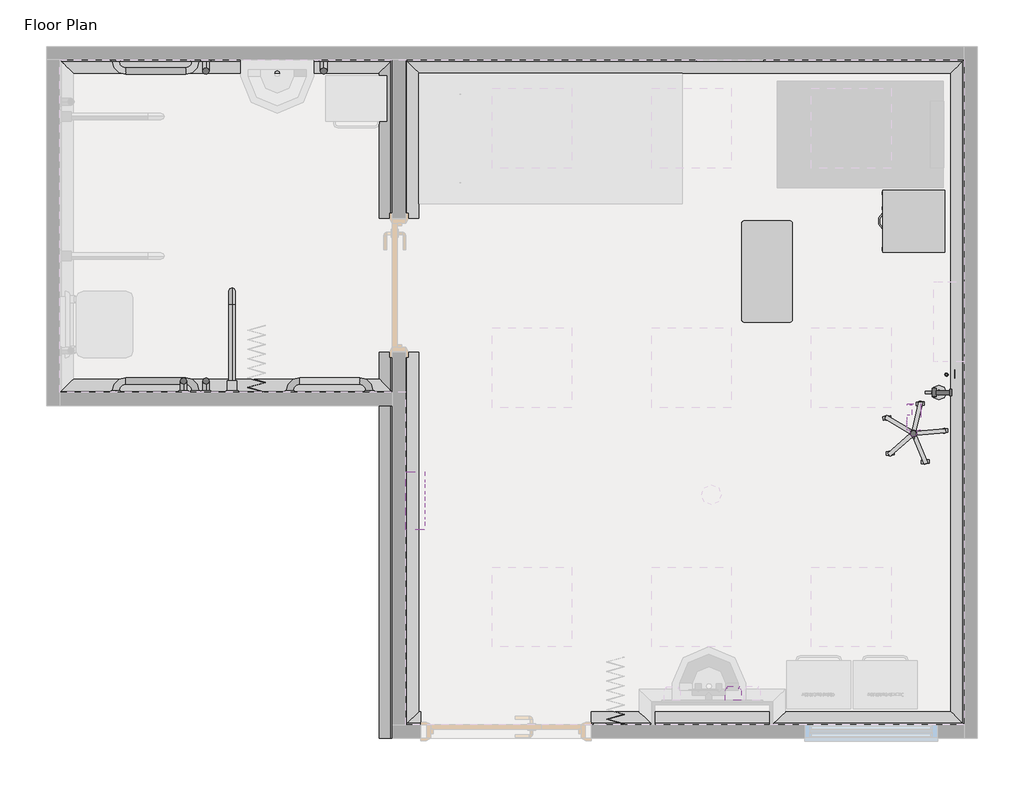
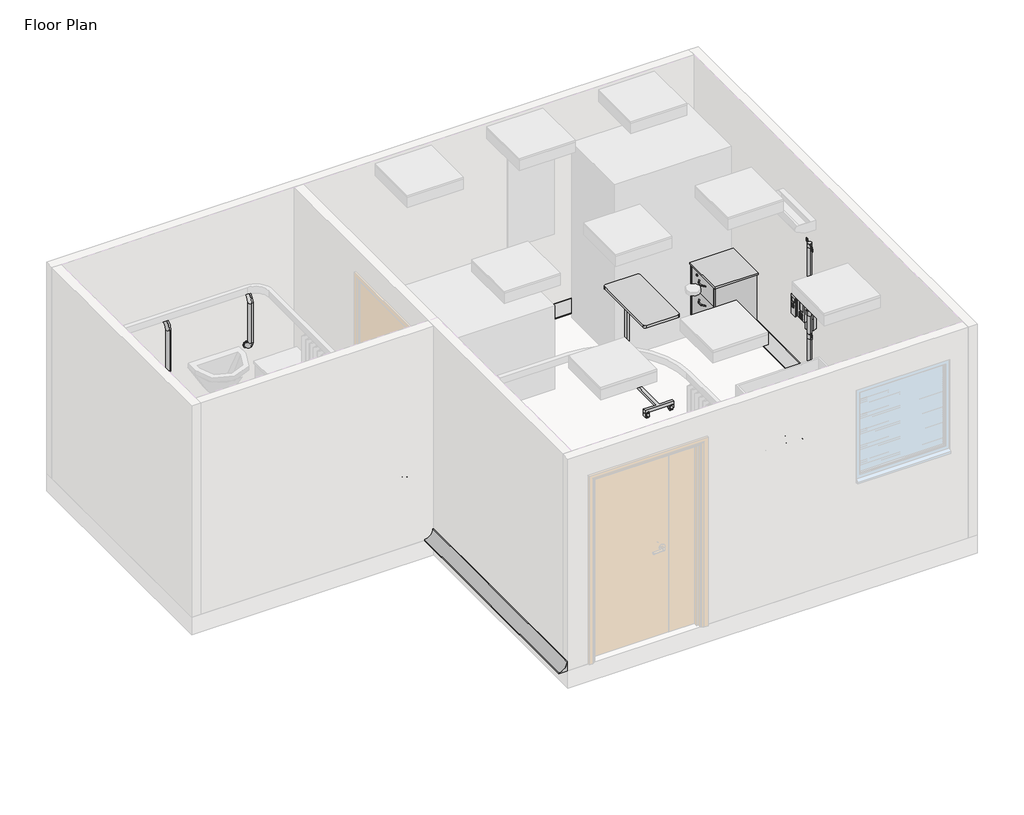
# One storey, part 2 of 2: 22 proxies.
"""IFC4 building model written with IfcOpenShell, lengths in millimetres."""

from ifc_helpers import new_model, si_unit, frame, origin, place, context, project, spatial, polyline, circle_curve, ellipse_curve, transform, mapped, element, save
from ifc_brep_helpers import plane_surface, revolved_surface, advanced_brep
from components import generic_models_eee01dc3, generic_models_69a9413b, generic_models_23b3e7a1, generic_models_51914271, generic_models_60647dcf, generic_models_1c4e6ef4, generic_models_abbf64a3, generic_models_7e8e4800, type_1_021b8e3e, type_1_3e4eb001, type_1_f4c963d5, type_1_f76a5bbc, type_1_f275d547

model = new_model("IFC4")

# Units and contexts
model_context = context("Model", 3, world=origin())
ifc_project = project(units=[si_unit("LENGTHUNIT", "METRE", prefix="MILLI")], contexts=[model_context])

# Site, building, storey
site = spatial("IfcSite", under=ifc_project)
building = spatial("IfcBuilding", under=site)
storey = spatial("IfcBuildingStorey", under=building, Name="Floor Plan", Elevation=0.0)

# Proxies
placement = place(None, origin())
element("IfcBuildingElementProxy", 1, Name="Wall Sweeps", at=placement, inside=storey, context=model_context, shape_type="AdvancedBrep", body=[
    advanced_brep(
    [(6305.0, 5415.0, 0.0), (6205.0, 5315.0, 0.0), (6205.0, 5315.0, 10.0), (6295.0, 5405.0, 100.0), (6305.0, 5415.0, 100.0), (6305.0, 415.0, 0.0), (6305.0, 415.0, 100.0), (6295.0, 425.0, 100.0), (6205.0, 515.0, 10.0), (6205.0, 515.0, 0.0)],
    [
        (0, 1),
        (1, 2),
        (2, 3, ellipse_curve(frame((6205.0, 5315.0, 100.0), z_axis=(0.7071067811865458, -0.7071067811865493, 0.0), x_axis=(-0.7071067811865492, -0.7071067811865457, 0.0)), 127.2792206, 90.0)),
        (3, 4),
        (4, 0),
        (5, 6),
        (6, 7),
        (7, 8, ellipse_curve(frame((6205.0, 515.0, 100.0), z_axis=(0.7071067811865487, 0.7071067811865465, 0.0), x_axis=(0.7071067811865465, -0.7071067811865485, 0.0)), 127.2792206, 90.0)),
        (8, 9),
        (9, 5),
        (0, 5),
        (9, 1),
        (8, 2),
        (7, 3),
        (6, 4),
    ],
    [
        plane_surface(frame((6305.0, 5415.0, 304.8), z_axis=(-0.7071067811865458, 0.7071067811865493, 0.0), x_axis=(-0.7071067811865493, -0.7071067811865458, 0.0))),
        plane_surface(frame((6305.0, 415.0, 304.8), z_axis=(-0.7071067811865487, -0.7071067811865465, 0.0), x_axis=(-0.7071067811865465, 0.7071067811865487, 0.0))),
        plane_surface(frame((6305.0, 5415.0, 0.0), z_axis=(0.0, 0.0, -1.0), x_axis=(0.0, -1.0, 0.0))),
        plane_surface(frame((6205.0, 5315.0, 0.0), z_axis=(-1.0, 0.0, 0.0), x_axis=(0.0, -1.0, 0.0))),
        revolved_surface(polyline([(6115.0, 425.0, 100.0), (6115.0, 5405.0, 100.0)]), (6205.0, 5415.0, 100.0), (0.0, -1.0, 0.0)),
        plane_surface(frame((6295.0, 5405.0, 100.0), z_axis=(0.0, 0.0, 1.0), x_axis=(0.0, -1.0, 0.0))),
        plane_surface(frame((6305.0, 5415.0, 100.0), z_axis=(1.0, 0.0, 0.0), x_axis=(0.0, -1.0, 0.0))),
    ],
    [
        (0, [[1, 2, 3, 4, 5]]),
        (1, [[6, 7, 8, 9, 10]]),
        (2, [[-1, 11, -10, 12]]),
        (3, [[-2, -12, -9, 13]]),
        (4, [[-3, -13, -8, 14]]),
        (5, [[-4, -14, -7, 15]]),
        (6, [[-5, -15, -6, -11]]),
    ],
),
])
element("IfcBuildingElementProxy", 2, Name="Wall Sweeps", at=placement, inside=storey, context=model_context, shape_type="AdvancedBrep", body=[
    advanced_brep(
    [(2220.0, 415.0, 0.0), (2220.0, 515.0, 0.0), (2220.0, 515.0, 10.0), (2220.0, 425.0, 100.0), (2220.0, 415.0, 100.0), (2105.0, 415.0, 0.0), (2105.0, 415.0, 100.0), (2115.0, 425.0, 100.0), (2205.0, 515.0, 10.0), (2205.0, 515.0, 0.0)],
    [
        (0, 1),
        (1, 2),
        (2, 3, circle_curve(frame((2220.0, 515.0, 100.0), z_axis=(-1.0, 0.0, 0.0), x_axis=(0.0, 1.0, 0.0)), 90.0)),
        (3, 4),
        (4, 0),
        (5, 6),
        (6, 7),
        (7, 8, ellipse_curve(frame((2205.0, 515.0, 100.0), z_axis=(0.7071067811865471, -0.707106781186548, 0.0), x_axis=(-0.7071067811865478, -0.7071067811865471, 0.0)), 127.2792206, 90.0)),
        (8, 9),
        (9, 5),
        (0, 5),
        (9, 1),
        (8, 2),
        (7, 3),
        (6, 4),
    ],
    [
        plane_surface(frame((2220.0, 415.0, -100.4987562), z_axis=(1.0, 0.0, 0.0), x_axis=(0.0, -1.0, 0.0))),
        plane_surface(frame((2105.0, 415.0, 304.8), z_axis=(-0.7071067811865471, 0.707106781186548, 0.0), x_axis=(0.707106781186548, 0.7071067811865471, 0.0))),
        plane_surface(frame((2220.0, 415.0, 0.0), z_axis=(0.0, 0.0, -1.0), x_axis=(-1.0, 0.0, 0.0))),
        plane_surface(frame((2220.0, 515.0, 0.0), z_axis=(0.0, 1.0, 0.0), x_axis=(-1.0, 0.0, 0.0))),
        revolved_surface(polyline([(2115.0, 605.0, 100.0), (2294.9999999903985, 605.0, 100.0)]), (2220.0, 515.0, 100.0), (-1.0, 0.0, 0.0)),
        plane_surface(frame((2220.0, 425.0, 100.0), z_axis=(0.0, 0.0, 1.0), x_axis=(-1.0, 0.0, 0.0))),
        plane_surface(frame((2220.0, 415.0, 100.0), z_axis=(0.0, -1.0, 0.0), x_axis=(-1.0, 0.0, 0.0))),
    ],
    [
        (0, [[1, 2, 3, 4, 5]]),
        (1, [[6, 7, 8, 9, 10]]),
        (2, [[-1, 11, -10, 12]]),
        (3, [[-2, -12, -9, 13]]),
        (4, [[-3, -13, -8, 14]]),
        (5, [[-4, -14, -7, 15]]),
        (6, [[-5, -15, -6, -11]]),
    ],
),
    advanced_brep(
    [(6305.0, 415.0, 0.0), (6205.0, 515.0, 0.0), (6205.0, 515.0, 10.0), (6295.0, 425.0, 100.0), (6305.0, 415.0, 100.0), (3500.0, 415.0, 0.0), (3500.0, 415.0, 100.0), (3500.0, 425.0, 100.0), (3500.0, 515.0, 10.0), (3500.0, 515.0, 0.0)],
    [
        (0, 1),
        (1, 2),
        (2, 3, ellipse_curve(frame((6205.0, 515.0, 100.0), z_axis=(-0.7071067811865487, -0.7071067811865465, 0.0), x_axis=(-0.7071067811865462, 0.7071067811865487, 0.0)), 127.2792206, 90.0)),
        (3, 4),
        (4, 0),
        (5, 6),
        (6, 7),
        (7, 8, circle_curve(frame((3500.0, 515.0, 100.0), z_axis=(1.0, 0.0, 0.0), x_axis=(0.0, 1.0, 0.0)), 90.0)),
        (8, 9),
        (9, 5),
        (0, 5),
        (9, 1),
        (8, 2),
        (7, 3),
        (6, 4),
    ],
    [
        plane_surface(frame((6305.0, 415.0, 304.8), z_axis=(0.7071067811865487, 0.7071067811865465, 0.0), x_axis=(-0.7071067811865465, 0.7071067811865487, 0.0))),
        plane_surface(frame((3500.0, 415.0, -100.4987562), z_axis=(-1.0, 0.0, 0.0), x_axis=(0.0, -1.0, 0.0))),
        plane_surface(frame((6305.0, 415.0, 0.0), z_axis=(0.0, 0.0, -1.0), x_axis=(-1.0, 0.0, 0.0))),
        plane_surface(frame((6205.0, 515.0, 0.0), z_axis=(0.0, 1.0, 0.0), x_axis=(-1.0, 0.0, 0.0))),
        revolved_surface(polyline([(3500.0, 605.0, 100.0), (6295.0, 605.0, 100.0)]), (6305.0, 515.0, 100.0), (-1.0, 0.0, 0.0)),
        plane_surface(frame((6295.0, 425.0, 100.0), z_axis=(0.0, 0.0, 1.0), x_axis=(-1.0, 0.0, 0.0))),
        plane_surface(frame((6305.0, 415.0, 100.0), z_axis=(0.0, -1.0, 0.0), x_axis=(-1.0, 0.0, 0.0))),
    ],
    [
        (0, [[1, 2, 3, 4, 5]]),
        (1, [[6, 7, 8, 9, 10]]),
        (2, [[-1, 11, -10, 12]]),
        (3, [[-2, -12, -9, 13]]),
        (4, [[-3, -13, -8, 14]]),
        (5, [[-4, -14, -7, 15]]),
        (6, [[-5, -15, -6, -11]]),
    ],
),
])
element("IfcBuildingElementProxy", 3, Name="Wall Sweeps", at=placement, inside=storey, context=model_context, shape_type="AdvancedBrep", body=[
    advanced_brep(
    [(2105.0, 415.0, 0.0), (2205.0, 515.0, 0.0), (2205.0, 515.0, 10.0), (2115.0, 425.0, 100.0), (2105.0, 415.0, 100.0), (2105.0, 3215.0, 0.0), (2105.0, 3215.0, 100.0), (2115.0, 3215.0, 100.0), (2205.0, 3215.0, 10.0), (2205.0, 3215.0, 0.0)],
    [
        (0, 1),
        (1, 2),
        (2, 3, ellipse_curve(frame((2205.0, 515.0, 100.0), z_axis=(-0.7071067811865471, 0.707106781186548, 0.0), x_axis=(0.707106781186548, 0.7071067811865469, 0.0)), 127.2792206, 90.0)),
        (3, 4),
        (4, 0),
        (5, 6),
        (6, 7),
        (7, 8, circle_curve(frame((2205.0, 3215.0, 100.0), z_axis=(0.0, -1.0, 0.0), x_axis=(1.0, 0.0, 0.0)), 90.0)),
        (8, 9),
        (9, 5),
        (0, 5),
        (9, 1),
        (8, 2),
        (7, 3),
        (6, 4),
    ],
    [
        plane_surface(frame((2105.0, 415.0, 304.8), z_axis=(0.7071067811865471, -0.707106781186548, 0.0), x_axis=(0.707106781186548, 0.7071067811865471, 0.0))),
        plane_surface(frame((2004.5012438, 3215.0, 0.0), z_axis=(0.0, 1.0, 0.0), x_axis=(0.0, 0.0, 1.0))),
        plane_surface(frame((2105.0, 415.0, 0.0), z_axis=(0.0, 0.0, -1.0), x_axis=(0.0, 1.0, 0.0))),
        plane_surface(frame((2205.0, 515.0, 0.0), z_axis=(1.0, 0.0, 0.0), x_axis=(0.0, 1.0, 0.0))),
        revolved_surface(polyline([(2295.0, 3215.0, 100.0), (2295.0, 425.0, 100.0)]), (2205.0, 415.0, 100.0), (0.0, 1.0, 0.0)),
        plane_surface(frame((2115.0, 425.0, 100.0), z_axis=(0.0, 0.0, 1.0), x_axis=(0.0, 1.0, 0.0))),
        plane_surface(frame((2105.0, 415.0, 100.0), z_axis=(-1.0, 0.0, 0.0), x_axis=(0.0, 1.0, 0.0))),
    ],
    [
        (0, [[1, 2, 3, 4, 5]]),
        (1, [[6, 7, 8, 9, 10]]),
        (2, [[-1, 11, -10, 12]]),
        (3, [[-2, -12, -9, 13]]),
        (4, [[-3, -13, -8, 14]]),
        (5, [[-4, -14, -7, 15]]),
        (6, [[-5, -15, -6, -11]]),
    ],
),
    advanced_brep(
    [(2105.0, 4225.0, 0.0), (2205.0, 4225.0, 0.0), (2205.0, 4225.0, 10.0), (2115.0, 4225.0, 100.0), (2105.0, 4225.0, 100.0), (2105.0, 5415.0, 0.0), (2105.0, 5415.0, 100.0), (2115.0, 5415.0, 100.0), (2205.0, 5415.0, 10.0), (2205.0, 5415.0, 0.0)],
    [
        (0, 1),
        (1, 2),
        (2, 3, circle_curve(frame((2205.0, 4225.0, 100.0), z_axis=(0.0, 1.0, 0.0), x_axis=(1.0, 0.0, 0.0)), 90.0)),
        (3, 4),
        (4, 0),
        (5, 6),
        (6, 7),
        (7, 8, circle_curve(frame((2205.0, 5415.0, 100.0), z_axis=(0.0, -1.0, 0.0), x_axis=(1.0, 0.0, 0.0)), 90.0)),
        (8, 9),
        (9, 5),
        (0, 5),
        (9, 1),
        (8, 2),
        (7, 3),
        (6, 4),
    ],
    [
        plane_surface(frame((2004.5012438, 4225.0, 0.0), z_axis=(0.0, -1.0, 0.0), x_axis=(0.0, 0.0, 1.0))),
        plane_surface(frame((2004.5012438, 5415.0, 0.0), z_axis=(0.0, 1.0, 0.0), x_axis=(0.0, 0.0, 1.0))),
        plane_surface(frame((2105.0, 4225.0, 0.0), z_axis=(0.0, 0.0, -1.0), x_axis=(0.0, 1.0, 0.0))),
        plane_surface(frame((2205.0, 4225.0, 0.0), z_axis=(1.0, 0.0, 0.0), x_axis=(0.0, 1.0, 0.0))),
        revolved_surface(polyline([(2295.0, 5415.0, 100.0), (2295.0, 4225.0, 100.0)]), (2205.0, 4225.0, 100.0), (0.0, 1.0, 0.0)),
        plane_surface(frame((2115.0, 4225.0, 100.0), z_axis=(0.0, 0.0, 1.0), x_axis=(0.0, 1.0, 0.0))),
        plane_surface(frame((2105.0, 4225.0, 100.0), z_axis=(-1.0, 0.0, 0.0), x_axis=(0.0, 1.0, 0.0))),
    ],
    [
        (0, [[1, 2, 3, 4, 5]]),
        (1, [[6, 7, 8, 9, 10]]),
        (2, [[-1, 11, -10, 12]]),
        (3, [[-2, -12, -9, 13]]),
        (4, [[-3, -13, -8, 14]]),
        (5, [[-4, -14, -7, 15]]),
        (6, [[-5, -15, -6, -11]]),
    ],
),
])
element("IfcBuildingElementProxy", 4, Name="Wall Sweeps", at=placement, inside=storey, context=model_context, shape_type="AdvancedBrep", body=[
    advanced_brep(
    [(-495.0, 5415.0, 0.0), (-395.0, 5315.0, 0.0), (-395.0, 5315.0, 10.0), (-485.0, 5405.0, 100.0), (-495.0, 5415.0, 100.0), (6305.0, 5415.0, 0.0), (6305.0, 5415.0, 100.0), (6295.0, 5405.0, 100.0), (6205.0, 5315.0, 10.0), (6205.0, 5315.0, 0.0)],
    [
        (0, 1),
        (1, 2),
        (2, 3, ellipse_curve(frame((-395.0, 5315.0, 100.0), z_axis=(0.7071067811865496, 0.7071067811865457, 0.0), x_axis=(0.7071067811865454, -0.7071067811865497, 0.0)), 127.2792206, 90.0)),
        (3, 4),
        (4, 0),
        (5, 6),
        (6, 7),
        (7, 8, ellipse_curve(frame((6205.0, 5315.0, 100.0), z_axis=(-0.7071067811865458, 0.7071067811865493, 0.0), x_axis=(0.7071067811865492, 0.7071067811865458, 0.0)), 127.2792206, 90.0)),
        (8, 9),
        (9, 5),
        (0, 5),
        (9, 1),
        (8, 2),
        (7, 3),
        (6, 4),
    ],
    [
        plane_surface(frame((-495.0, 5415.0, 304.8), z_axis=(-0.7071067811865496, -0.7071067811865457, 0.0), x_axis=(0.7071067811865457, -0.7071067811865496, 0.0))),
        plane_surface(frame((6305.0, 5415.0, 304.8), z_axis=(0.7071067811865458, -0.7071067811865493, 0.0), x_axis=(-0.7071067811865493, -0.7071067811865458, 0.0))),
        plane_surface(frame((-495.0, 5415.0, 0.0), z_axis=(0.0, 0.0, -1.0), x_axis=(1.0, 0.0, 0.0))),
        plane_surface(frame((-395.0, 5315.0, 0.0), z_axis=(0.0, -1.0, 0.0), x_axis=(1.0, 0.0, 0.0))),
        revolved_surface(polyline([(6295.0, 5225.0, 100.0), (-485.0, 5225.0, 100.0)]), (-495.0, 5315.0, 100.0), (1.0, 0.0, 0.0)),
        plane_surface(frame((-485.0, 5405.0, 100.0), z_axis=(0.0, 0.0, 1.0), x_axis=(1.0, 0.0, 0.0))),
        plane_surface(frame((-495.0, 5415.0, 100.0), z_axis=(0.0, 1.0, 0.0), x_axis=(1.0, 0.0, 0.0))),
    ],
    [
        (0, [[1, 2, 3, 4, 5]]),
        (1, [[6, 7, 8, 9, 10]]),
        (2, [[-1, 11, -10, 12]]),
        (3, [[-2, -12, -9, 13]]),
        (4, [[-3, -13, -8, 14]]),
        (5, [[-4, -14, -7, 15]]),
        (6, [[-5, -15, -6, -11]]),
    ],
),
])
element("IfcBuildingElementProxy", 5, Name="Wall Sweeps", at=placement, inside=storey, context=model_context, shape_type="AdvancedBrep", body=[
    advanced_brep(
    [(-495.0, 2915.0, 0.0), (-495.0, 2915.0, 100.0), (-485.0, 2925.0, 100.0), (-395.0, 3015.0, 10.0), (-395.0, 3015.0, 0.0), (2005.0, 2915.0, 0.0), (2005.0, 3015.0, 0.0), (2005.0, 3015.0, 10.0), (2005.0, 2925.0, 100.0), (2005.0, 2915.0, 100.0)],
    [
        (0, 1),
        (1, 2),
        (2, 3, ellipse_curve(frame((-395.0, 3015.0, 100.0), z_axis=(0.707106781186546, -0.7071067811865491, 0.0), x_axis=(0.707106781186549, 0.707106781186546, 0.0)), 127.2792206, 90.0)),
        (3, 4),
        (4, 0),
        (5, 6),
        (6, 7),
        (7, 8, circle_curve(frame((2005.0, 3015.0, 100.0), z_axis=(-1.0, 0.0, 0.0), x_axis=(0.0, 1.0, 0.0)), 90.0)),
        (8, 9),
        (9, 5),
        (0, 5),
        (9, 1),
        (8, 2),
        (7, 3),
        (6, 4),
    ],
    [
        plane_surface(frame((-495.0, 2915.0, -304.8), z_axis=(-0.707106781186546, 0.7071067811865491, 0.0), x_axis=(0.7071067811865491, 0.707106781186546, 0.0))),
        plane_surface(frame((2005.0, 2915.0, -100.4987562), z_axis=(1.0, 0.0, 0.0), x_axis=(0.0, 1.0, 0.0))),
        plane_surface(frame((-495.0, 2915.0, 0.0), z_axis=(0.0, -1.0, 0.0), x_axis=(1.0, 0.0, 0.0))),
        plane_surface(frame((-495.0, 2915.0, 100.0), z_axis=(0.0, 0.0, 1.0), x_axis=(1.0, 0.0, 0.0))),
        revolved_surface(polyline([(2005.0, 3105.0, 100.0), (-485.0, 3105.0, 100.0)]), (-495.0, 3015.0, 100.0), (1.0, 0.0, 0.0)),
        plane_surface(frame((-395.0, 3015.0, 10.0), z_axis=(0.0, 1.0, 0.0), x_axis=(1.0, 0.0, 0.0))),
        plane_surface(frame((-395.0, 3015.0, 0.0), z_axis=(0.0, 0.0, -1.0), x_axis=(1.0, 0.0, 0.0))),
    ],
    [
        (0, [[1, 2, 3, 4, 5]]),
        (1, [[6, 7, 8, 9, 10]]),
        (2, [[-1, 11, -10, 12]]),
        (3, [[-2, -12, -9, 13]]),
        (4, [[-3, -13, -8, 14]]),
        (5, [[-4, -14, -7, 15]]),
        (6, [[-5, -15, -6, -11]]),
    ],
),
])
element("IfcBuildingElementProxy", 6, Name="Wall Sweeps", at=placement, inside=storey, context=model_context, shape_type="AdvancedBrep", body=[
    advanced_brep(
    [(2005.0, 315.0, 0.0), (2005.0, 315.0, 100.0), (1995.0, 315.0, 100.0), (1905.0, 315.0, 10.0), (1905.0, 315.0, 0.0), (2005.0, 3215.0, 0.0), (1905.0, 3215.0, 0.0), (1905.0, 3215.0, 10.0), (1995.0, 3215.0, 100.0), (2005.0, 3215.0, 100.0), (2005.0, 415.0, 0.0)],
    [
        (0, 1),
        (1, 2),
        (2, 3, circle_curve(frame((1905.0, 315.0, 100.0), z_axis=(0.0, 1.0, 0.0), x_axis=(-1.0, 0.0, 0.0)), 90.0)),
        (3, 4),
        (4, 0),
        (5, 6),
        (6, 7),
        (7, 8, circle_curve(frame((1905.0, 3215.0, 100.0), z_axis=(0.0, -1.0, 0.0), x_axis=(-1.0, 0.0, 0.0)), 90.0)),
        (8, 9),
        (9, 5),
        (0, 10),
        (10, 5),
        (9, 1),
        (8, 2),
        (7, 3),
        (6, 4),
    ],
    [
        plane_surface(frame((1904.5012438, 315.0, 0.0), z_axis=(0.0, -1.0, 0.0), x_axis=(0.0, 0.0, 1.0))),
        plane_surface(frame((1904.5012438, 3215.0, 0.0), z_axis=(0.0, 1.0, 0.0), x_axis=(0.0, 0.0, 1.0))),
        plane_surface(frame((2005.0, 315.0, 0.0), z_axis=(1.0, 0.0, 0.0), x_axis=(0.0, 1.0, 0.0))),
        plane_surface(frame((2005.0, 315.0, 100.0), z_axis=(0.0, 0.0, 1.0), x_axis=(0.0, 1.0, 0.0))),
        revolved_surface(polyline([(1815.0, 3215.0, 100.0), (1815.0, 315.0, 100.0)]), (1905.0, 315.0, 100.0), (0.0, 1.0, 0.0)),
        plane_surface(frame((1905.0, 315.0, 10.0), z_axis=(-1.0, 0.0, 0.0), x_axis=(0.0, 1.0, 0.0))),
        plane_surface(frame((1905.0, 315.0, 0.0), z_axis=(0.0, 0.0, -1.0), x_axis=(0.0, 1.0, 0.0))),
    ],
    [
        (0, [[1, 2, 3, 4, 5]]),
        (1, [[6, 7, 8, 9, 10]]),
        (2, [[-1, 11, 12, -10, 13]]),
        (3, [[-2, -13, -9, 14]]),
        (4, [[-3, -14, -8, 15]]),
        (5, [[-4, -15, -7, 16]]),
        (6, [[-5, -16, -6, -12, -11]]),
    ],
),
    advanced_brep(
    [(2005.0, 4225.0, 0.0), (2005.0, 4225.0, 100.0), (1995.0, 4225.0, 100.0), (1905.0, 4225.0, 10.0), (1905.0, 4225.0, 0.0), (2005.0, 5415.0, 0.0), (1905.0, 5415.0, 0.0), (1905.0, 5415.0, 10.0), (1995.0, 5415.0, 100.0), (2005.0, 5415.0, 100.0)],
    [
        (0, 1),
        (1, 2),
        (2, 3, circle_curve(frame((1905.0, 4225.0, 100.0), z_axis=(0.0, 1.0, 0.0), x_axis=(-1.0, 0.0, 0.0)), 90.0)),
        (3, 4),
        (4, 0),
        (5, 6),
        (6, 7),
        (7, 8, circle_curve(frame((1905.0, 5415.0, 100.0), z_axis=(0.0, -1.0, 0.0), x_axis=(-1.0, 0.0, 0.0)), 90.0)),
        (8, 9),
        (9, 5),
        (0, 5),
        (9, 1),
        (8, 2),
        (7, 3),
        (6, 4),
    ],
    [
        plane_surface(frame((1904.5012438, 4225.0, 0.0), z_axis=(0.0, -1.0, 0.0), x_axis=(0.0, 0.0, 1.0))),
        plane_surface(frame((1904.5012438, 5415.0, 0.0), z_axis=(0.0, 1.0, 0.0), x_axis=(0.0, 0.0, 1.0))),
        plane_surface(frame((2005.0, 4225.0, 0.0), z_axis=(1.0, 0.0, 0.0), x_axis=(0.0, 1.0, 0.0))),
        plane_surface(frame((2005.0, 4225.0, 100.0), z_axis=(0.0, 0.0, 1.0), x_axis=(0.0, 1.0, 0.0))),
        revolved_surface(polyline([(1815.0, 5415.0, 100.0), (1815.0, 4225.0, 100.0)]), (1905.0, 4225.0, 100.0), (0.0, 1.0, 0.0)),
        plane_surface(frame((1905.0, 4225.0, 10.0), z_axis=(-1.0, 0.0, 0.0), x_axis=(0.0, 1.0, 0.0))),
        plane_surface(frame((1905.0, 4225.0, 0.0), z_axis=(0.0, 0.0, -1.0), x_axis=(0.0, 1.0, 0.0))),
    ],
    [
        (0, [[1, 2, 3, 4, 5]]),
        (1, [[6, 7, 8, 9, 10]]),
        (2, [[-1, 11, -10, 12]]),
        (3, [[-2, -12, -9, 13]]),
        (4, [[-3, -13, -8, 14]]),
        (5, [[-4, -14, -7, 15]]),
        (6, [[-5, -15, -6, -11]]),
    ],
),
])
generic_models_shape = generic_models_eee01dc3(model_context)
element("IfcBuildingElementProxy", 7, Name="BIMHealth-Table_Overbed-LOD2A-v1 : BIMHealth-Table_Overbed-LOD2A-v1", ObjectType="BIMHealth-Table_Overbed-LOD2A-v1 : BIMHealth-Table_Overbed-LOD2A-v1", at=placement, inside=storey, context=model_context, shape_type="MappedRepresentation", body=[
    mapped(generic_models_shape, transform((5013.7834569, 4204.5, 0.0), x_axis=(0.0, -1.0000000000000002, 0.0), y_axis=(1.0000000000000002, 0.0, 0.0), z_axis=(0.0, 0.0, 1.0))),
])
generic_models_2_shape = generic_models_69a9413b(model_context)
element("IfcBuildingElementProxy", 8, Name="BIMHealth-Drip_Stand-LOD2A-v1 : BIMHealth-Drip_Stand-LOD2A-v1", ObjectType="BIMHealth-Drip_Stand-LOD2A-v1 : BIMHealth-Drip_Stand-LOD2A-v1", at=placement, inside=storey, context=model_context, shape_type="MappedRepresentation", body=[
    mapped(generic_models_2_shape, transform((5923.0037354, 2605.3435148, 0.0), x_axis=(-0.08715574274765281, 0.9961946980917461, 0.0), y_axis=(-0.9961946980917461, -0.08715574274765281, 0.0), z_axis=(0.0, 0.0, 1.0))),
])
generic_models_3_shape = generic_models_23b3e7a1(model_context)
element("IfcBuildingElementProxy", 9, Name="BIMHealth-IV_Pump-LOD2A-v1 : BIMHealth-IV_Pump-LOD2A-v1", ObjectType="BIMHealth-IV_Pump-LOD2A-v1 : BIMHealth-IV_Pump-LOD2A-v1", at=placement, inside=storey, context=model_context, shape_type="MappedRepresentation", body=[
    mapped(generic_models_3_shape, transform((5977.0111903, 2628.228362, 0.0), x_axis=(0.0, 1.0000000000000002, 0.0), y_axis=(-1.0000000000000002, 0.0, 0.0), z_axis=(0.0, 0.0, 1.0))),
])
generic_models_4_shape = generic_models_51914271(model_context)
element("IfcBuildingElementProxy", 10, Name="BIMHealth-Locker_Bedside-LOD2A-v1 : BIMHealth-Locker_Bedside-LOD2A-v1", ObjectType="BIMHealth-Locker_Bedside-LOD2A-v1 : BIMHealth-Locker_Bedside-LOD2A-v1", at=placement, inside=storey, context=model_context, shape_type="MappedRepresentation", body=[
    mapped(generic_models_4_shape, transform((6150.0, 4477.5, 0.0), x_axis=(0.0, -1.0000000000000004, 0.0), y_axis=(1.0000000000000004, 0.0, 0.0), z_axis=(0.0, 0.0, 1.0))),
])
generic_models_5_shape = generic_models_60647dcf(model_context)
element("IfcBuildingElementProxy", 11, Name="BIMHealth-Flowmeter_Oxygen-LOD2A-v1 : BIMHealth-Flowmeter_Oxygen-LOD2A-v1", ObjectType="BIMHealth-Flowmeter_Oxygen-LOD2A-v1 : BIMHealth-Flowmeter_Oxygen-LOD2A-v1", at=placement, inside=storey, context=model_context, shape_type="MappedRepresentation", body=[
    mapped(generic_models_5_shape, transform((6172.1875, 3047.6875, 0.0), x_axis=(0.0, 1.0000000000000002, 0.0), y_axis=(-1.0000000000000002, 0.0, 0.0), z_axis=(0.0, 0.0, 1.0))),
])
generic_models_6_shape = generic_models_1c4e6ef4(model_context)
element("IfcBuildingElementProxy", 12, Name="BIMHealth-Flowmeter_Suction-LOD2A-v1 : BIMHealth-Flowmeter_Suction-LOD2A-v1", ObjectType="BIMHealth-Flowmeter_Suction-LOD2A-v1 : BIMHealth-Flowmeter_Suction-LOD2A-v1", at=placement, inside=storey, context=model_context, shape_type="MappedRepresentation", body=[
    mapped(generic_models_6_shape, transform((6095.0, 2912.5, 0.0), x_axis=(0.0, -1.0, 0.0), y_axis=(1.0, 0.0, 0.0), z_axis=(0.0, 0.0, 1.0))),
])
generic_models_7_shape = generic_models_abbf64a3(model_context)
element("IfcBuildingElementProxy", 13, Name="BIMHealth-Hand_Cream_Dispenser-LOD2A-v1 : BIMHealth-Hand_Cream_Dispenser-LOD2A-v1", ObjectType="BIMHealth-Hand_Cream_Dispenser-LOD2A-v1 : BIMHealth-Hand_Cream_Dispenser-LOD2A-v1", at=placement, inside=storey, context=model_context, shape_type="MappedRepresentation", body=[
    mapped(generic_models_7_shape, transform((4627.6775216, 601.0, 150.0), x_axis=(-1.0000000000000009, 0.0, 0.0), y_axis=(0.0, -1.0000000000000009, 0.0), z_axis=(0.0, 0.0, 1.0))),
])
generic_models_8_shape = generic_models_7e8e4800(model_context)
element("IfcBuildingElementProxy", 14, Name="BIMHealth-Danicentre_ppe_Dispenser-LOD2A-v1 : BIMHealth-Danicentre_ppe_Dispenser-LOD2A-v1", ObjectType="BIMHealth-Danicentre_ppe_Dispenser-LOD2A-v1 : BIMHealth-Danicentre_ppe_Dispenser-LOD2A-v1", at=placement, inside=storey, context=model_context, shape_type="MappedRepresentation", body=[
    mapped(generic_models_8_shape, transform((2250.0, 2317.5, 0.0), x_axis=(0.0, -1.000000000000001, 0.0), y_axis=(1.000000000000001, 0.0, 0.0), z_axis=(0.0, 0.0, 1.0))),
])
type_1_shape = type_1_021b8e3e(model_context)
element("IfcBuildingElementProxy", 15, Name="BIMHealth-Grab_Rail_Horizontal-LOD2A-v1 : Type 1", ObjectType="BIMHealth-Grab_Rail_Horizontal-LOD2A-v1 : Type 1", at=placement, inside=storey, context=model_context, shape_type="MappedRepresentation", body=[
    mapped(type_1_shape, transform((100.0, 2865.0, 0.0), x_axis=(1.0, 0.0, 0.0), y_axis=(0.0, 1.0, 0.0), z_axis=(0.0, 0.0, 1.0))),
])
type_1_2_shape = type_1_3e4eb001(model_context)
element("IfcBuildingElementProxy", 16, Name="BIMHealth-Grab_Rail_Vertical-LOD2A-v1 : Type 1", ObjectType="BIMHealth-Grab_Rail_Vertical-LOD2A-v1 : Type 1", at=placement, inside=storey, context=model_context, shape_type="MappedRepresentation", body=[
    mapped(type_1_2_shape, transform((730.0, 5465.0, 0.0), x_axis=(-1.0, 0.0, 0.0), y_axis=(0.0, -1.0, 0.0), z_axis=(0.0, 0.0, 1.0))),
])
type_1_3_shape = type_1_f4c963d5(model_context)
element("IfcBuildingElementProxy", 17, Name="BIMHealth-Grab_Rail_Vertical-LOD2A-v1 : Type 1", ObjectType="BIMHealth-Grab_Rail_Vertical-LOD2A-v1 : Type 1", at=placement, inside=storey, context=model_context, shape_type="MappedRepresentation", body=[
    mapped(type_1_3_shape, transform((1365.0, 5465.0, 0.0), x_axis=(1.0, 0.0, 0.0), y_axis=(0.0, 1.0, 0.0), z_axis=(0.0, 0.0, 1.0))),
])
element("IfcBuildingElementProxy", 18, Name="BIMHealth-Grab_Rail_Vertical-LOD2A-v1 : Type 1", ObjectType="BIMHealth-Grab_Rail_Vertical-LOD2A-v1 : Type 1", at=placement, inside=storey, context=model_context, shape_type="MappedRepresentation", body=[
    mapped(type_1_3_shape, transform((730.0, 2865.0, 0.0), x_axis=(-1.0, 0.0, 0.0), y_axis=(0.0, -1.0, 0.0), z_axis=(0.0, 0.0, 1.0))),
])
element("IfcBuildingElementProxy", 19, Name="BIMHealth-Grab_Rail_Vertical-LOD2A-v1 : Type 1", ObjectType="BIMHealth-Grab_Rail_Vertical-LOD2A-v1 : Type 1", at=placement, inside=storey, context=model_context, shape_type="MappedRepresentation", body=[
    mapped(type_1_3_shape, transform((560.0, 2865.0, 100.0), x_axis=(-1.0, 0.0, 0.0), y_axis=(0.0, -1.0, 0.0), z_axis=(0.0, 0.0, 1.0))),
])
type_1_4_shape = type_1_f76a5bbc(model_context)
element("IfcBuildingElementProxy", 20, Name="BIMHealth-Grab_Rail_Horizontal-LOD2A-v1 : Type 1", ObjectType="BIMHealth-Grab_Rail_Horizontal-LOD2A-v1 : Type 1", at=placement, inside=storey, context=model_context, shape_type="MappedRepresentation", body=[
    mapped(type_1_4_shape, transform((100.0, 5465.0, 0.0), x_axis=(1.0, 0.0, 0.0), y_axis=(0.0, 1.0, 0.0), z_axis=(0.0, 0.0, 1.0))),
])
element("IfcBuildingElementProxy", 21, Name="BIMHealth-Grab_Rail_Horizontal-LOD2A-v1 : Type 1", ObjectType="BIMHealth-Grab_Rail_Horizontal-LOD2A-v1 : Type 1", at=placement, inside=storey, context=model_context, shape_type="MappedRepresentation", body=[
    mapped(type_1_4_shape, transform((1658.5052831, 2865.0, 0.0), x_axis=(-1.0, 0.0, 0.0), y_axis=(0.0, -1.0, 0.0), z_axis=(0.0, 0.0, 1.0))),
])
type_1_5_shape = type_1_f275d547(model_context)
element("IfcBuildingElementProxy", 22, Name="BIMHealth-Grab_Rail_Drop_Down-LOD2A-v1 : Type 1", ObjectType="BIMHealth-Grab_Rail_Drop_Down-LOD2A-v1 : Type 1", at=placement, inside=storey, context=model_context, shape_type="MappedRepresentation", body=[
    mapped(type_1_5_shape, transform((925.0, 2865.0, 0.0), x_axis=(-1.0, 0.0, 0.0), y_axis=(0.0, -1.0, 0.0), z_axis=(0.0, 0.0, 1.0))),
])

save(model, "model.ifc")
